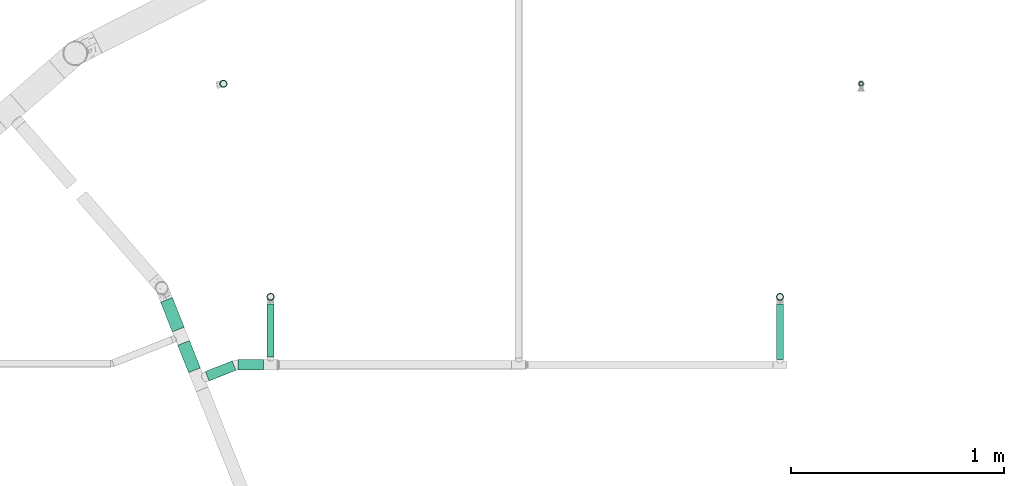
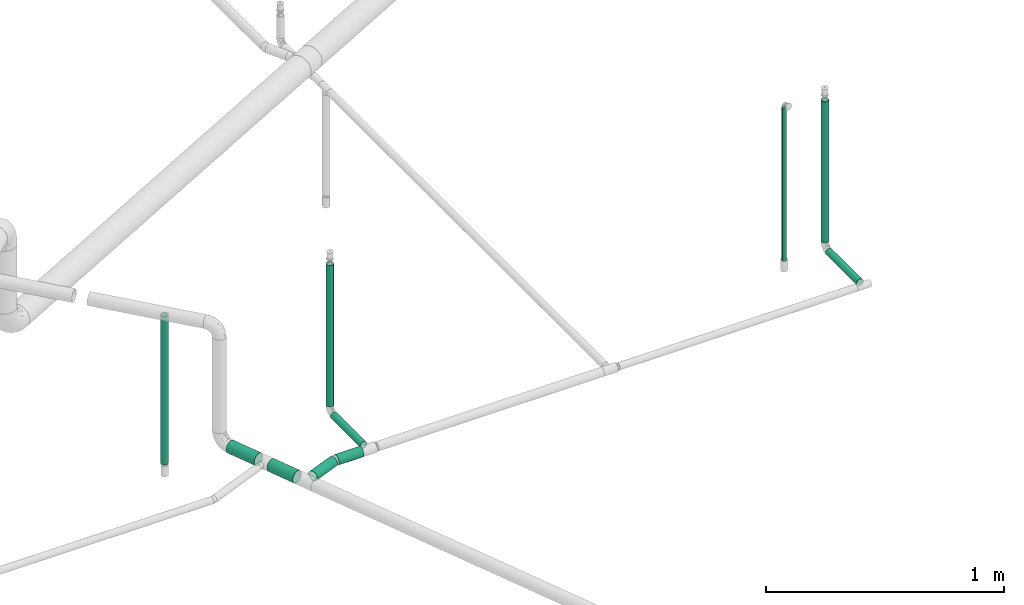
# One storey, part 11 of 94: 10 flow segments.
"""IFC2X3 building model written with IfcOpenShell, lengths in millimetres."""

from ifc_helpers import new_model, entity, si_unit, converted_unit, derived_unit, direction, frame, origin_with_axes, origin_2d_with_axis, place, context, subcontext, project, spatial, hollow_circle, extrude, source, transform, mapped, type_object, element, save


model = new_model("IFC2X3")

# Units and contexts
model_context = context("Model", 3, precision=0.01, world=frame((0.0, 4.29681676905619e-09, 0.0)), true_north=direction((4.01073788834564e-13, 1.0)))
plan_context = context("Plan", 3, precision=0.01, world=frame((0.0, 4.29681676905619e-09, 0.0)), true_north=direction((4.01073788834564e-13, 1.0)))
body_context = subcontext(model_context, "Body", "Model", "MODEL_VIEW")
ifc_project = project(units=[converted_unit("PLANEANGLEUNIT", "DEGREE", entity("IfcPositiveLengthMeasure", 0.0174532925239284), si_unit("PLANEANGLEUNIT", "RADIAN"), dimensions=[0, 0, 0, 0, 0, 0, 0]), si_unit("AREAUNIT", "SQUARE_METRE"), si_unit("LENGTHUNIT", "METRE", prefix="MILLI"), si_unit("MASSUNIT", "GRAM", prefix="KILO"), si_unit("POWERUNIT", "WATT"), si_unit("PRESSUREUNIT", "PASCAL", prefix="KILO"), si_unit("FORCEUNIT", "NEWTON", prefix="KILO"), si_unit("ELECTRICVOLTAGEUNIT", "VOLT"), si_unit("ELECTRICCURRENTUNIT", "AMPERE"), si_unit("THERMODYNAMICTEMPERATUREUNIT", "DEGREE_CELSIUS"), si_unit("TIMEUNIT", "SECOND"), si_unit("VOLUMEUNIT", "CUBIC_METRE"), derived_unit("LINEARVELOCITYUNIT", [(si_unit("LENGTHUNIT", "METRE"), 1), (si_unit("TIMEUNIT", "SECOND"), -1)]), derived_unit("VOLUMETRICFLOWRATEUNIT", [(si_unit("VOLUMEUNIT", "CUBIC_METRE"), 1), (si_unit("TIMEUNIT", "SECOND"), -1)]), derived_unit("THERMALTRANSMITTANCEUNIT", [(si_unit("POWERUNIT", "WATT"), 1), (si_unit("THERMODYNAMICTEMPERATUREUNIT", "KELVIN"), -1), (si_unit("AREAUNIT", "SQUARE_METRE"), -1)]), derived_unit("SOUNDPRESSUREUNIT", [(si_unit("PRESSUREUNIT", "PASCAL"), 1)])], contexts=[model_context, plan_context])

# Site, building, storey
site_placement = place(None, frame((0.0, -4.29681676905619e-09, 0.0), z_axis=(0.0, 0.0, 1.0), x_axis=(1.0, 0.0, 0.0)))
site = spatial("IfcSite", under=ifc_project, at=site_placement, CompositionType="ELEMENT")
building_placement = place(site_placement, frame((0.0, 4.29681676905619e-09, 0.0), z_axis=(0.0, 0.0, 1.0), x_axis=(1.0, 0.0, 0.0)))
building = spatial("IfcBuilding", under=site, at=building_placement, Name="mc-building", CompositionType="ELEMENT")
storey_placement = place(building_placement, frame((0.0, 0.0, 210900.0), z_axis=(0.0, 0.0, 1.0), x_axis=(1.0, 0.0, 0.0)))
storey = spatial("IfcBuildingStorey", under=building, at=storey_placement, Name="Nivå F", CompositionType="ELEMENT", Elevation=210900.0)

# Flow segments
pipe_segment_type = type_object("IfcPipeSegmentType", Name="Stålrør normaltykke", PredefinedType="RIGIDSEGMENT")
shared_shape_1 = source(origin_with_axes(), body_context, "Body", "SweptSolid", [
    extrude(hollow_circle(Radius=30.1, WallThickness=2.0, at=origin_2d_with_axis()), frame((0.0, 0.0, 0.0), z_axis=(1.0, 0.0, 0.0), x_axis=(0.0, 1.0, 0.0)), (0.0, 0.0, 1.0), 150.3),
])
flow_segment_1_placement = place(storey_placement, frame((718732.07459, 441183.88279, 3600.0), z_axis=(0.0, 0.0, 1.0), x_axis=(0.369451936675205, -0.929249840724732, 0.0)))
element("IfcFlowSegment", 1, at=flow_segment_1_placement, inside=storey, type_object=pipe_segment_type, Name="Stålrør normaltykke", context=body_context, shape_type="MappedRepresentation", body=[
    mapped(shared_shape_1, transform((0.0, 0.0, 0.0), scale=1.0)),
])
shared_shape_2 = source(origin_with_axes(), body_context, "Body", "SweptSolid", [
    extrude(hollow_circle(Radius=24.1, WallThickness=2.0, at=origin_2d_with_axis()), frame((0.0, 0.0, 0.0), z_axis=(1.0, 0.0, 0.0), x_axis=(0.0, 1.0, 0.0)), (0.0, 0.0, 1.0), 135.6),
])
flow_segment_2_placement = place(storey_placement, frame((718923.67873, 440824.57237, 3600.0), z_axis=(0.0, 0.0, 1.0), x_axis=(0.929249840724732, 0.369451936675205, 0.0)))
element("IfcFlowSegment", 2, at=flow_segment_2_placement, inside=storey, type_object=pipe_segment_type, Name="Stålrør normaltykke", context=body_context, shape_type="MappedRepresentation", body=[
    mapped(shared_shape_2, transform((0.0, 0.0, 0.0), scale=1.0)),
])
shared_shape_3 = source(origin_with_axes(), body_context, "Body", "SweptSolid", [
    extrude(hollow_circle(Radius=30.1, WallThickness=2.0, at=origin_2d_with_axis()), frame((0.0, 0.0, 0.0), z_axis=(1.0, 0.0, 0.0), x_axis=(0.0, 1.0, 0.0)), (0.0, 0.0, 1.0), 138.4),
])
flow_segment_3_placement = place(storey_placement, frame((718812.57322, 440981.41197, 3600.0), z_axis=(0.0, 0.0, 1.0), x_axis=(0.369451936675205, -0.929249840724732, 0.0)))
element("IfcFlowSegment", 3, at=flow_segment_3_placement, inside=storey, type_object=pipe_segment_type, Name="Stålrør normaltykke", context=body_context, shape_type="MappedRepresentation", body=[
    mapped(shared_shape_3, transform((0.0, 0.0, 0.0), scale=1.0)),
])
shared_shape_4 = source(origin_with_axes(), body_context, "Body", "SweptSolid", [
    extrude(hollow_circle(Radius=16.9, WallThickness=2.0, at=origin_2d_with_axis()), frame((0.0, 0.0, 0.0), z_axis=(1.0, 0.0, 0.0), x_axis=(0.0, 1.0, 0.0)), (0.0, 0.0, 1.0), 260.8),
])
flow_segment_4_placement = place(storey_placement, frame((721618.28055, 440903.43755, 3600.0), z_axis=(0.0, 0.0, 1.0), x_axis=(0.0, 1.0, 0.0)))
element("IfcFlowSegment", 4, at=flow_segment_4_placement, inside=storey, type_object=pipe_segment_type, Name="Stålrør normaltykke", context=body_context, shape_type="MappedRepresentation", body=[
    mapped(shared_shape_4, transform((0.0, 0.0, 0.0), scale=1.0)),
])
shared_shape_5 = source(origin_with_axes(), body_context, "Body", "SweptSolid", [
    extrude(hollow_circle(Radius=16.9, WallThickness=2.0, at=origin_2d_with_axis()), frame((0.0, 0.0, 0.0), z_axis=(1.0, 0.0, 0.0), x_axis=(0.0, 1.0, 0.0)), (0.0, 0.0, 1.0), 249.9),
])
flow_segment_5_placement = place(storey_placement, frame((719221.4788, 440914.38755, 3600.0), z_axis=(0.0, 0.0, 1.0), x_axis=(0.0, 1.0, 0.0)))
element("IfcFlowSegment", 5, at=flow_segment_5_placement, inside=storey, type_object=pipe_segment_type, Name="Stålrør normaltykke", context=body_context, shape_type="MappedRepresentation", body=[
    mapped(shared_shape_5, transform((0.0, 0.0, 0.0), scale=1.0)),
])
shared_shape_6 = source(origin_with_axes(), body_context, "Body", "SweptSolid", [
    extrude(hollow_circle(Radius=24.1, WallThickness=2.0, at=origin_2d_with_axis()), frame((0.0, 0.0, 0.0), z_axis=(1.0, 0.0, 0.0), x_axis=(0.0, 1.0, 0.0)), (0.0, 0.0, 1.0), 120.1),
])
flow_segment_6_placement = place(storey_placement, frame((719067.54918, 440878.08755, 3600.0), z_axis=(0.0, 0.0, 1.0), x_axis=(1.0, 0.0, 0.0)))
element("IfcFlowSegment", 6, at=flow_segment_6_placement, inside=storey, type_object=pipe_segment_type, Name="Stålrør normaltykke", context=body_context, shape_type="MappedRepresentation", body=[
    mapped(shared_shape_6, transform((0.0, 0.0, 0.0), scale=1.0)),
])
shared_shape_7 = source(origin_with_axes(), body_context, "Body", "SweptSolid", [
    extrude(hollow_circle(Radius=16.9, WallThickness=2.0, at=origin_2d_with_axis()), frame((0.0, 0.0, 0.0), z_axis=(1.0, 0.0, 0.0), x_axis=(0.0, 1.0, 0.0)), (0.0, 0.0, 1.0), 723.8),
])
for number, where, z_axis, x_axis in (
    (7, (719221.4788, 441198.08755, 3633.79999999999), (-1.0, 0.0, 0.0), (0.0, 0.0, 1.0)),
    (8, (721618.28055, 441198.08755, 3633.79999999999), (-1.0, 0.0, 0.0), (0.0, 0.0, 1.0)),
):
    element("IfcFlowSegment", number, at=place(storey_placement, frame(where, z_axis=z_axis, x_axis=x_axis)), inside=storey, type_object=pipe_segment_type, Name="Stålrør normaltykke", context=body_context, shape_type="MappedRepresentation", body=[
        mapped(shared_shape_7, transform((0.0, 0.0, 0.0), scale=1.0)),
    ])
shared_shape_8 = source(origin_with_axes(), body_context, "Body", "SweptSolid", [
    extrude(hollow_circle(Radius=16.9, WallThickness=2.0, at=origin_2d_with_axis()), frame((0.0, 0.0, 0.0), z_axis=(1.0, 0.0, 0.0), x_axis=(0.0, 1.0, 0.0)), (0.0, 0.0, 1.0), 759.3),
])
flow_segment_7_placement = place(storey_placement, frame((719000.0, 442200.7, 2806.89074), z_axis=(0.0, 1.0, 0.0), x_axis=(0.0, 0.0, 1.0)))
element("IfcFlowSegment", 9, at=flow_segment_7_placement, inside=storey, type_object=pipe_segment_type, Name="Stålrør normaltykke", context=body_context, shape_type="MappedRepresentation", body=[
    mapped(shared_shape_8, transform((0.0, 0.0, 0.0), scale=1.0)),
])
shared_shape_9 = source(origin_with_axes(), body_context, "Body", "SweptSolid", [
    extrude(hollow_circle(Radius=10.7, WallThickness=2.0, at=origin_2d_with_axis()), frame((0.0, 0.0, 0.0), z_axis=(1.0, 0.0, 0.0), x_axis=(0.0, 1.0, 0.0)), (0.0, 0.0, 1.0), 784.1),
])
flow_segment_8_placement = place(storey_placement, frame((722000.0, 442200.7, 2794.49074000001), z_axis=(0.0, 1.0, 0.0), x_axis=(0.0, 0.0, 1.0)))
element("IfcFlowSegment", 10, at=flow_segment_8_placement, inside=storey, type_object=pipe_segment_type, Name="Stålrør normaltykke", context=body_context, shape_type="MappedRepresentation", body=[
    mapped(shared_shape_9, transform((0.0, 0.0, 0.0), scale=1.0)),
])

save(model, "model.ifc")
